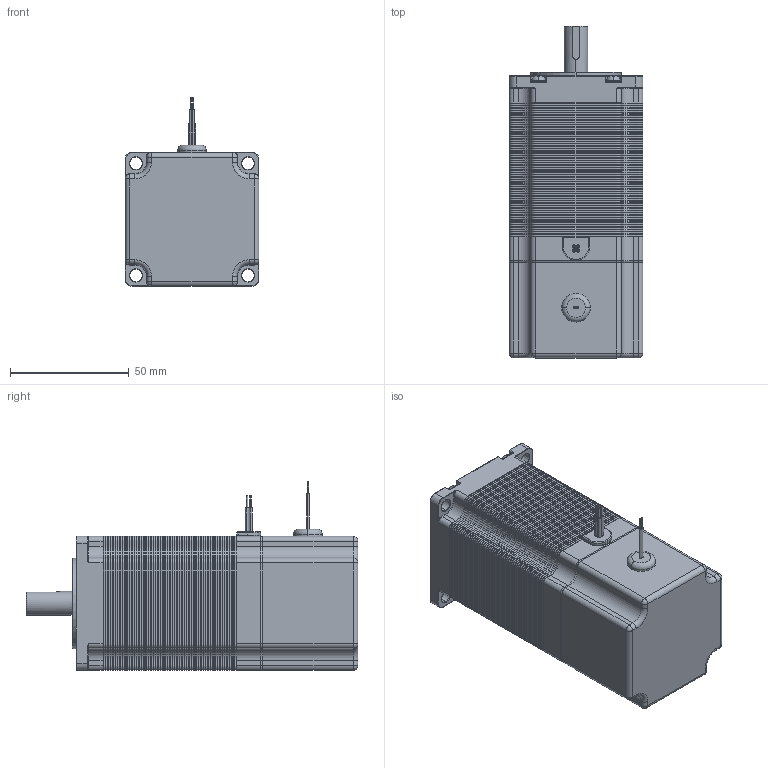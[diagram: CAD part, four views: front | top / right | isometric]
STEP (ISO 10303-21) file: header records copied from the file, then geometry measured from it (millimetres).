
FILE_DESCRIPTION (( 'STEP AP214' ), '1' );
FILE_NAME ('Nema 23 Stepper Motor length 80mm_10mm_key_BRK.STEP', '2020-11-11T13:24:31', ( 'Moofasta' ), ( '' ), 'SwSTEP 2.0', 'SolidWorks 2020', '' );
FILE_SCHEMA (( 'AUTOMOTIVE_DESIGN' ));
Length unit declared in the file: millimetre
Products named in the file (1): Nema 23 Stepper Motor length 80mm_10mm_key_BRK
Bounding box: 56.3 x 139.5 x 79.3 mm (x, y, z)
Volume: 341667.1 mm3; surface area: 357622.5 mm2
Topology: 72 solids, 73 shells, 4692 faces, 10669 edges, 6107 vertices
Faces by surface type: plane 2321, cone 1372, cylinder 871, torus 100, sphere 20, bspline 8
Entity records: 176750 total; most frequent: DIRECTION 23202, CARTESIAN_POINT 21921, ORIENTED_EDGE 21282, EDGE_CURVE 10641, AXIS2_PLACEMENT_3D 7952, VECTOR 7298, LINE 7298, VERTEX_POINT 6107
